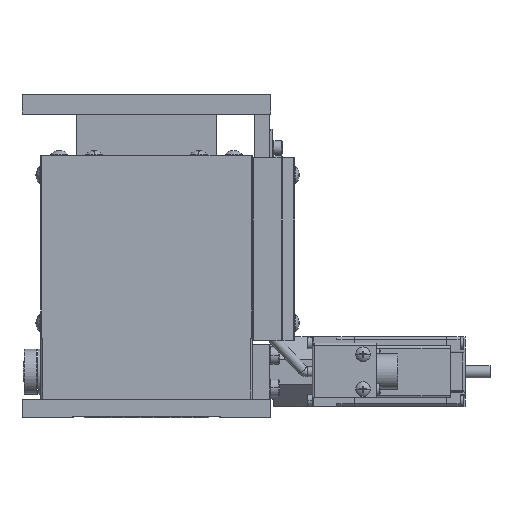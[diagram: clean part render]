
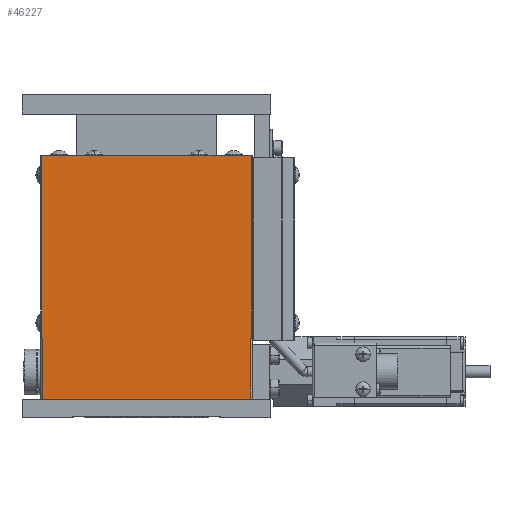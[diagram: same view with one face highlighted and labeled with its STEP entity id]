
A CAD part, front view. The second image highlights one B-rep face of the part: STEP entity #46227.
In plain terms, the highlighted planar face has unit normal (0, -1, 0).
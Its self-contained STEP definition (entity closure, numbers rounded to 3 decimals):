
#61 = EDGE_CURVE ( 'NONE', #46667, #29185, #46444, .T. ) ;
#940 = CARTESIAN_POINT ( 'NONE',  ( -45.499, -260.551, 599.682 ) ) ;
#4047 = FACE_OUTER_BOUND ( 'NONE', #10339, .T. ) ;
#4402 = CARTESIAN_POINT ( 'NONE',  ( -128.699, -260.551, 575.182 ) ) ;
#4507 = EDGE_CURVE ( 'NONE', #55130, #46667, #56060, .T. ) ;
#5803 = VERTEX_POINT ( 'NONE', #47811 ) ;
#7230 = VECTOR ( 'NONE', #22730, 1000. ) ;
#8134 = CARTESIAN_POINT ( 'NONE',  ( -45.099, -260.551, 673.182 ) ) ;
#8756 = VERTEX_POINT ( 'NONE', #53979 ) ;
#8990 = CARTESIAN_POINT ( 'NONE',  ( -129.599, -260.551, 599.682 ) ) ;
#9071 = LINE ( 'NONE', #20410, #44214 ) ;
#10339 = EDGE_LOOP ( 'NONE', ( #22269, #12197, #49997, #30677, #29899, #55126, #10636, #26497 ) ) ;
#10636 = ORIENTED_EDGE ( 'NONE', *, *, #61, .T. ) ;
#10847 = DIRECTION ( 'NONE',  ( 0., 0., 1. ) ) ;
#11208 = DIRECTION ( 'NONE',  ( 0., 0., -1. ) ) ;
#12197 = ORIENTED_EDGE ( 'NONE', *, *, #29978, .T. ) ;
#13382 = VERTEX_POINT ( 'NONE', #8134 ) ;
#14769 = LINE ( 'NONE', #940, #20481 ) ;
#14874 = CARTESIAN_POINT ( 'NONE',  ( -129.099, -260.551, 599.682 ) ) ;
#14944 = DIRECTION ( 'NONE',  ( 0., 1., 0. ) ) ;
#16344 = VECTOR ( 'NONE', #39913, 1000. ) ;
#20098 = PLANE ( 'NONE',  #55354 ) ;
#20410 = CARTESIAN_POINT ( 'NONE',  ( -128.699, -260.551, 599.682 ) ) ;
#20481 = VECTOR ( 'NONE', #46643, 1000. ) ;
#21621 = VERTEX_POINT ( 'NONE', #4402 ) ;
#22031 = CARTESIAN_POINT ( 'NONE',  ( -128.699, -260.551, 599.682 ) ) ;
#22060 = VECTOR ( 'NONE', #25473, 1000. ) ;
#22269 = ORIENTED_EDGE ( 'NONE', *, *, #55459, .F. ) ;
#22730 = DIRECTION ( 'NONE',  ( 0., 0., -1. ) ) ;
#25014 = EDGE_CURVE ( 'NONE', #29185, #21621, #9071, .T. ) ;
#25473 = DIRECTION ( 'NONE',  ( 1., 0., 0. ) ) ;
#26497 = ORIENTED_EDGE ( 'NONE', *, *, #25014, .T. ) ;
#27834 = DIRECTION ( 'NONE',  ( 1., 0., 0. ) ) ;
#28752 = VECTOR ( 'NONE', #10847, 1000. ) ;
#29120 = LINE ( 'NONE', #47901, #29812 ) ;
#29185 = VERTEX_POINT ( 'NONE', #22031 ) ;
#29345 = EDGE_CURVE ( 'NONE', #8756, #39652, #56388, .T. ) ;
#29812 = VECTOR ( 'NONE', #39275, 1000. ) ;
#29899 = ORIENTED_EDGE ( 'NONE', *, *, #43964, .F. ) ;
#29978 = EDGE_CURVE ( 'NONE', #5803, #8756, #14769, .T. ) ;
#30677 = ORIENTED_EDGE ( 'NONE', *, *, #41826, .T. ) ;
#35542 = CARTESIAN_POINT ( 'NONE',  ( -129.599, -260.551, 673.182 ) ) ;
#35988 = CARTESIAN_POINT ( 'NONE',  ( -129.099, -260.551, 599.682 ) ) ;
#37407 = LINE ( 'NONE', #56549, #28752 ) ;
#38164 = DIRECTION ( 'NONE',  ( 1., 0., 0. ) ) ;
#38541 = LINE ( 'NONE', #35542, #16344 ) ;
#39275 = DIRECTION ( 'NONE',  ( -1., 0., 0. ) ) ;
#39652 = VERTEX_POINT ( 'NONE', #41177 ) ;
#39913 = DIRECTION ( 'NONE',  ( 1., 0., 0. ) ) ;
#41177 = CARTESIAN_POINT ( 'NONE',  ( -45.099, -260.551, 599.682 ) ) ;
#41826 = EDGE_CURVE ( 'NONE', #39652, #13382, #37407, .T. ) ;
#42379 = CARTESIAN_POINT ( 'NONE',  ( -44.599, -260.551, 599.682 ) ) ;
#43964 = EDGE_CURVE ( 'NONE', #55130, #13382, #38541, .T. ) ;
#44214 = VECTOR ( 'NONE', #11208, 1000. ) ;
#44990 = CARTESIAN_POINT ( 'NONE',  ( -129.099, -260.551, 673.182 ) ) ;
#46227 = ADVANCED_FACE ( 'NONE', ( #4047 ), #20098, .F. ) ;
#46444 = LINE ( 'NONE', #48319, #22060 ) ;
#46643 = DIRECTION ( 'NONE',  ( 0., 0., 1. ) ) ;
#46667 = VERTEX_POINT ( 'NONE', #14874 ) ;
#47811 = CARTESIAN_POINT ( 'NONE',  ( -45.499, -260.551, 575.182 ) ) ;
#47901 = CARTESIAN_POINT ( 'NONE',  ( -44.599, -260.551, 575.182 ) ) ;
#48319 = CARTESIAN_POINT ( 'NONE',  ( -129.599, -260.551, 599.682 ) ) ;
#49997 = ORIENTED_EDGE ( 'NONE', *, *, #29345, .T. ) ;
#52073 = VECTOR ( 'NONE', #27834, 1000. ) ;
#53979 = CARTESIAN_POINT ( 'NONE',  ( -45.499, -260.551, 599.682 ) ) ;
#55126 = ORIENTED_EDGE ( 'NONE', *, *, #4507, .T. ) ;
#55130 = VERTEX_POINT ( 'NONE', #44990 ) ;
#55354 = AXIS2_PLACEMENT_3D ( 'NONE', #42379, #14944, #38164 ) ;
#55459 = EDGE_CURVE ( 'NONE', #5803, #21621, #29120, .T. ) ;
#56060 = LINE ( 'NONE', #35988, #7230 ) ;
#56388 = LINE ( 'NONE', #8990, #52073 ) ;
#56549 = CARTESIAN_POINT ( 'NONE',  ( -45.099, -260.551, 599.682 ) ) ;
